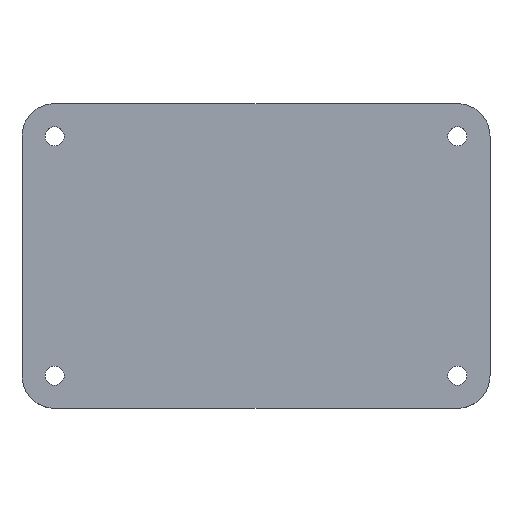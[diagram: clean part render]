
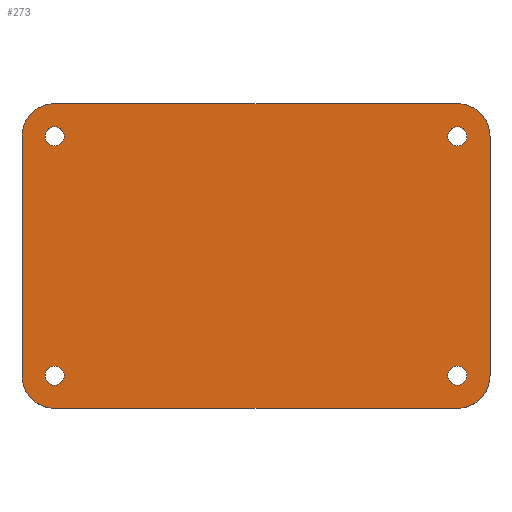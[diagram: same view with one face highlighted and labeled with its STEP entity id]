
A CAD part, top view. The second image highlights one B-rep face of the part: STEP entity #273.
In plain terms, the highlighted planar face has unit normal (0, 0, 1).
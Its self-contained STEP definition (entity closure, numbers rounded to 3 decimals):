
#15=FACE_BOUND('',#56,.T.);
#16=FACE_BOUND('',#57,.T.);
#17=FACE_BOUND('',#58,.T.);
#18=FACE_BOUND('',#59,.T.);
#27=PLANE('',#317);
#41=FACE_OUTER_BOUND('',#55,.T.);
#55=EDGE_LOOP('',(#229,#230,#231,#232,#233,#234,#235,#236));
#56=EDGE_LOOP('',(#237));
#57=EDGE_LOOP('',(#238));
#58=EDGE_LOOP('',(#239));
#59=EDGE_LOOP('',(#240));
#71=LINE('',#433,#91);
#75=LINE('',#445,#95);
#79=LINE('',#457,#99);
#83=LINE('',#469,#103);
#91=VECTOR('',#353,10.);
#95=VECTOR('',#365,10.);
#99=VECTOR('',#377,10.);
#103=VECTOR('',#389,10.);
#105=CIRCLE('',#290,1.75);
#107=CIRCLE('',#293,1.75);
#109=CIRCLE('',#296,1.75);
#111=CIRCLE('',#299,1.75);
#114=CIRCLE('',#304,6.);
#116=CIRCLE('',#308,6.);
#118=CIRCLE('',#312,6.);
#120=CIRCLE('',#316,6.);
#121=VERTEX_POINT('',#403);
#123=VERTEX_POINT('',#409);
#125=VERTEX_POINT('',#415);
#127=VERTEX_POINT('',#421);
#131=VERTEX_POINT('',#430);
#132=VERTEX_POINT('',#432);
#134=VERTEX_POINT('',#438);
#136=VERTEX_POINT('',#444);
#138=VERTEX_POINT('',#450);
#140=VERTEX_POINT('',#456);
#142=VERTEX_POINT('',#462);
#144=VERTEX_POINT('',#468);
#145=EDGE_CURVE('',#121,#121,#105,.T.);
#148=EDGE_CURVE('',#123,#123,#107,.T.);
#151=EDGE_CURVE('',#125,#125,#109,.T.);
#154=EDGE_CURVE('',#127,#127,#111,.T.);
#159=EDGE_CURVE('',#132,#131,#71,.T.);
#162=EDGE_CURVE('',#134,#132,#114,.T.);
#165=EDGE_CURVE('',#136,#134,#75,.T.);
#168=EDGE_CURVE('',#138,#136,#116,.T.);
#171=EDGE_CURVE('',#140,#138,#79,.T.);
#174=EDGE_CURVE('',#142,#140,#118,.T.);
#177=EDGE_CURVE('',#144,#142,#83,.T.);
#180=EDGE_CURVE('',#131,#144,#120,.T.);
#229=ORIENTED_EDGE('',*,*,#180,.T.);
#230=ORIENTED_EDGE('',*,*,#177,.T.);
#231=ORIENTED_EDGE('',*,*,#174,.T.);
#232=ORIENTED_EDGE('',*,*,#171,.T.);
#233=ORIENTED_EDGE('',*,*,#168,.T.);
#234=ORIENTED_EDGE('',*,*,#165,.T.);
#235=ORIENTED_EDGE('',*,*,#162,.T.);
#236=ORIENTED_EDGE('',*,*,#159,.T.);
#237=ORIENTED_EDGE('',*,*,#154,.T.);
#238=ORIENTED_EDGE('',*,*,#151,.T.);
#239=ORIENTED_EDGE('',*,*,#148,.T.);
#240=ORIENTED_EDGE('',*,*,#145,.T.);
#273=ADVANCED_FACE('',(#41,#15,#16,#17,#18),#27,.T.);
#290=AXIS2_PLACEMENT_3D('',#404,#323,#324);
#293=AXIS2_PLACEMENT_3D('',#410,#330,#331);
#296=AXIS2_PLACEMENT_3D('',#416,#337,#338);
#299=AXIS2_PLACEMENT_3D('',#422,#344,#345);
#304=AXIS2_PLACEMENT_3D('',#439,#359,#360);
#308=AXIS2_PLACEMENT_3D('',#451,#371,#372);
#312=AXIS2_PLACEMENT_3D('',#463,#383,#384);
#316=AXIS2_PLACEMENT_3D('',#473,#395,#396);
#317=AXIS2_PLACEMENT_3D('',#474,#397,#398);
#323=DIRECTION('center_axis',(0.,0.,-1.));
#324=DIRECTION('ref_axis',(1.,0.,0.));
#330=DIRECTION('center_axis',(0.,0.,-1.));
#331=DIRECTION('ref_axis',(1.,0.,0.));
#337=DIRECTION('center_axis',(0.,0.,-1.));
#338=DIRECTION('ref_axis',(1.,0.,0.));
#344=DIRECTION('center_axis',(0.,0.,-1.));
#345=DIRECTION('ref_axis',(1.,0.,0.));
#353=DIRECTION('',(0.,1.,0.));
#359=DIRECTION('center_axis',(0.,0.,1.));
#360=DIRECTION('ref_axis',(1.,0.,0.));
#365=DIRECTION('',(1.,0.,0.));
#371=DIRECTION('center_axis',(0.,0.,1.));
#372=DIRECTION('ref_axis',(1.,0.,0.));
#377=DIRECTION('',(0.,-1.,0.));
#383=DIRECTION('center_axis',(0.,0.,1.));
#384=DIRECTION('ref_axis',(1.,0.,0.));
#389=DIRECTION('',(-1.,0.,0.));
#395=DIRECTION('center_axis',(0.,0.,1.));
#396=DIRECTION('ref_axis',(1.,0.,0.));
#397=DIRECTION('center_axis',(0.,0.,1.));
#398=DIRECTION('ref_axis',(1.,0.,0.));
#403=CARTESIAN_POINT('',(35.25,22.,4.));
#404=CARTESIAN_POINT('Origin',(37.,22.,4.));
#409=CARTESIAN_POINT('',(-38.75,22.,4.));
#410=CARTESIAN_POINT('Origin',(-37.,22.,4.));
#415=CARTESIAN_POINT('',(35.25,-22.,4.));
#416=CARTESIAN_POINT('Origin',(37.,-22.,4.));
#421=CARTESIAN_POINT('',(-38.75,-22.,4.));
#422=CARTESIAN_POINT('Origin',(-37.,-22.,4.));
#430=CARTESIAN_POINT('',(43.,22.,4.));
#432=CARTESIAN_POINT('',(43.,-22.,4.));
#433=CARTESIAN_POINT('',(43.,22.,4.));
#438=CARTESIAN_POINT('',(37.,-28.,4.));
#439=CARTESIAN_POINT('Origin',(37.,-22.,4.));
#444=CARTESIAN_POINT('',(-37.,-28.,4.));
#445=CARTESIAN_POINT('',(37.,-28.,4.));
#450=CARTESIAN_POINT('',(-43.,-22.,4.));
#451=CARTESIAN_POINT('Origin',(-37.,-22.,4.));
#456=CARTESIAN_POINT('',(-43.,22.,4.));
#457=CARTESIAN_POINT('',(-43.,22.,4.));
#462=CARTESIAN_POINT('',(-37.,28.,4.));
#463=CARTESIAN_POINT('Origin',(-37.,22.,4.));
#468=CARTESIAN_POINT('',(37.,28.,4.));
#469=CARTESIAN_POINT('',(37.,28.,4.));
#473=CARTESIAN_POINT('Origin',(37.,22.,4.));
#474=CARTESIAN_POINT('Origin',(0.,0.,4.));
